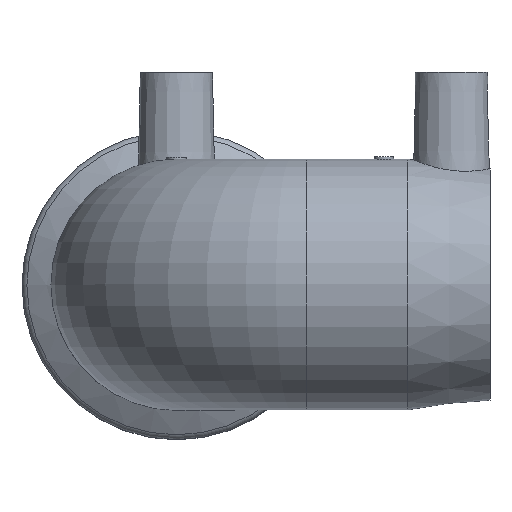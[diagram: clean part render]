
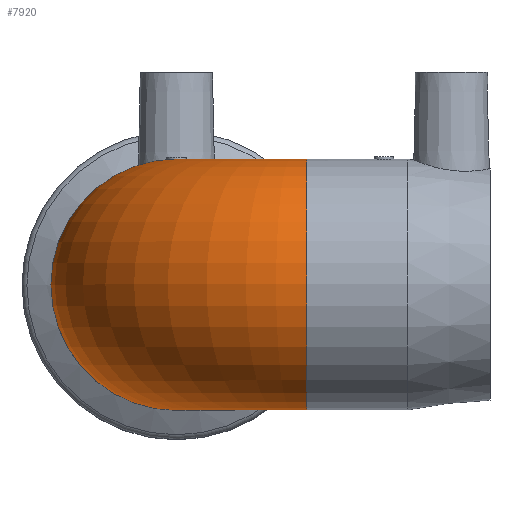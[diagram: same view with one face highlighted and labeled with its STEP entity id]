
A CAD part, top view. The second image highlights one B-rep face of the part: STEP entity #7920.
In plain terms, the highlighted toroidal (fillet/blend) face has major radius 27 mm and minor radius 26 mm.
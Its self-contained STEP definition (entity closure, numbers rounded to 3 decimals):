
#609=TOROIDAL_SURFACE('',#10235,27.,26.);
#1509=ORIENTED_EDGE('',*,*,#4029,.F.);
#1510=ORIENTED_EDGE('',*,*,#4034,.T.);
#4029=EDGE_CURVE('',#5299,#5299,#6118,.F.);
#4034=EDGE_CURVE('',#5304,#5304,#6121,.F.);
#5299=VERTEX_POINT('',#13387);
#5304=VERTEX_POINT('',#13427);
#6118=CIRCLE('',#10219,26.);
#6121=CIRCLE('',#10224,26.);
#6497=EDGE_LOOP('',(#1509));
#6498=EDGE_LOOP('',(#1510));
#7102=FACE_BOUND('',#6497,.T.);
#7103=FACE_BOUND('',#6498,.T.);
#7920=ADVANCED_FACE('',(#7102,#7103),#609,.T.);
#10219=AXIS2_PLACEMENT_3D('',#13386,#11198,#11199);
#10224=AXIS2_PLACEMENT_3D('',#13426,#11208,#11209);
#10235=AXIS2_PLACEMENT_3D('',#13488,#11230,#11231);
#11198=DIRECTION('',(-1.,0.,0.));
#11199=DIRECTION('',(0.,0.,-1.));
#11208=DIRECTION('',(0.,0.,-1.));
#11209=DIRECTION('',(1.,0.,0.));
#11230=DIRECTION('',(0.,1.,0.));
#11231=DIRECTION('',(0.,0.,1.));
#13386=CARTESIAN_POINT('',(27.,0.,65.));
#13387=CARTESIAN_POINT('',(27.,0.,39.));
#13426=CARTESIAN_POINT('',(0.,0.,38.));
#13427=CARTESIAN_POINT('',(26.,0.,38.));
#13488=CARTESIAN_POINT('',(27.,0.,38.));
